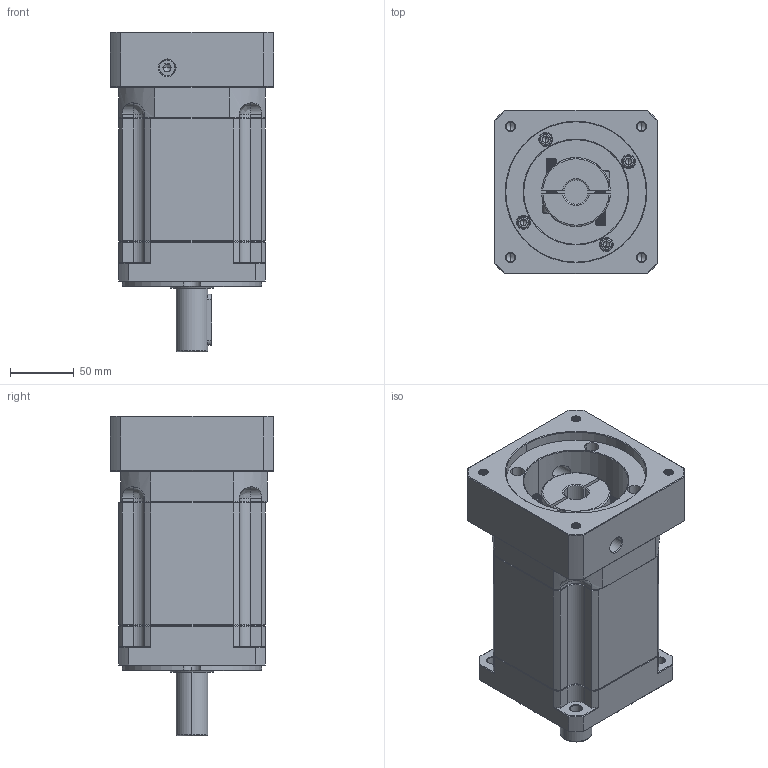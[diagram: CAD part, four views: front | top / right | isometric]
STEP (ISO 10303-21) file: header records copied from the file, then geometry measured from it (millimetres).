
FILE_DESCRIPTION (( 'STEP AP214' ), '1' );
FILE_NAME ('ZB115A-D25-L3-P2-19-110-145-M8.step', '2023-08-26T06:24:39', ( '' ), ( '' ), 'SwSTEP 2.0', 'SolidWorks 2016', '' );
FILE_SCHEMA (( 'AUTOMOTIVE_DESIGN' ));
Length unit declared in the file: millimetre
Products named in the file (1): ZB115A-D25-L3-P2-19-110-145-M8
Bounding box: 128 x 128 x 250.5 mm (x, y, z)
Volume: 2272610.1 mm3; surface area: 202465.1 mm2
Topology: 6 solids, 6 shells, 2391 faces, 6281 edges, 3989 vertices
Faces by surface type: plane 1143, cylinder 439, bspline 423, cone 366, torus 20
Entity records: 128991 total; most frequent: CARTESIAN_POINT 47329, ORIENTED_EDGE 12494, DIRECTION 9884, EDGE_CURVE 6247, VECTOR 3994, LINE 3994, VERTEX_POINT 3989, AXIS2_PLACEMENT_3D 2945
